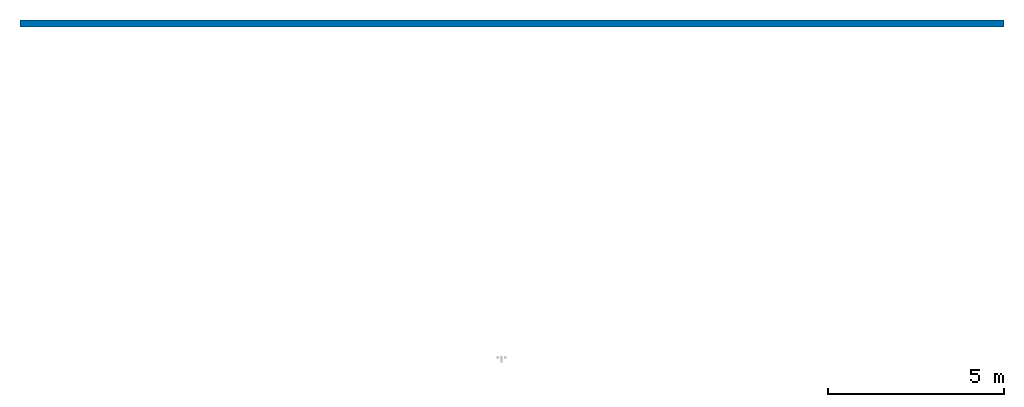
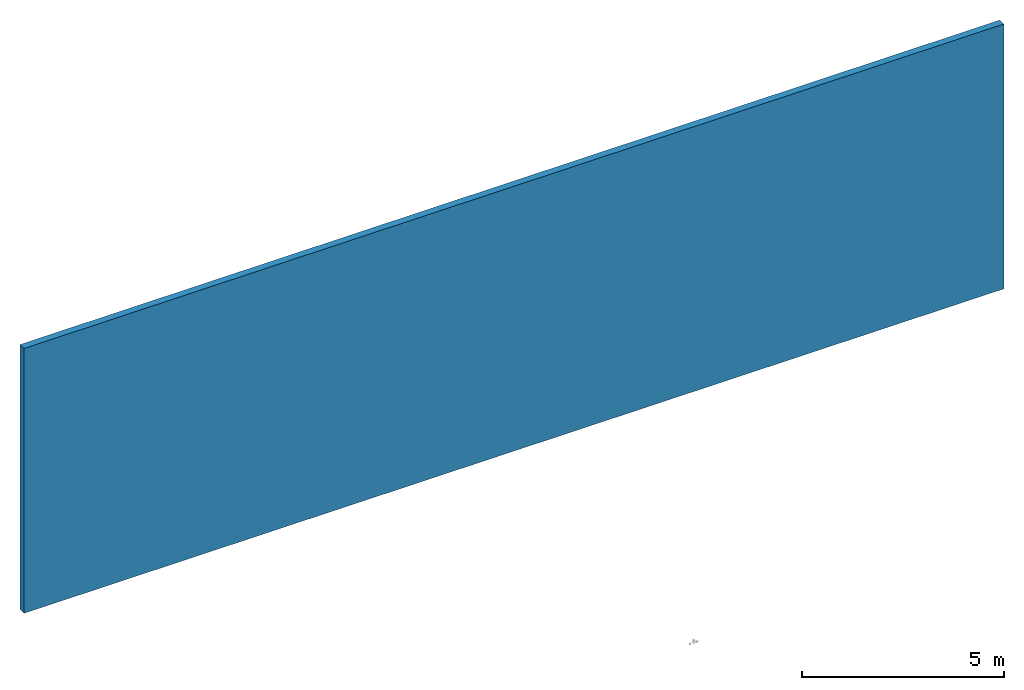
# One storey, part 1 of 2: 1 wall.
"""IFC2X3 building model written with IfcOpenShell, lengths in millimetres."""

from ifc_helpers import new_model, entity, si_unit, converted_unit, derived_unit, direction, frame, frame_2d, origin, place, context, subcontext, project, spatial, rectangle, extrude, material, layer, layer_set, layer_usage, type_object, element, save


model = new_model("IFC2X3")

# Units and contexts
model_context = context("Model", 3, precision=0.01, world=origin(), true_north=direction((6.12303176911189e-17, 1.0)))
body_context = subcontext(model_context, "Body", "Model", "MODEL_VIEW")
ifc_project = project(units=[si_unit("LENGTHUNIT", "METRE", prefix="MILLI"), si_unit("AREAUNIT", "SQUARE_METRE"), si_unit("VOLUMEUNIT", "CUBIC_METRE"), converted_unit("PLANEANGLEUNIT", "DEGREE", entity("IfcRatioMeasure", 0.0174532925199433), si_unit("PLANEANGLEUNIT", "RADIAN"), dimensions=[0, 0, 0, 0, 0, 0, 0]), si_unit("MASSUNIT", "GRAM", prefix="KILO"), derived_unit("MASSDENSITYUNIT", [(si_unit("MASSUNIT", "GRAM", prefix="KILO"), 1), (si_unit("LENGTHUNIT", "METRE"), -3)]), derived_unit("MOMENTOFINERTIAUNIT", [(si_unit("LENGTHUNIT", "METRE"), 4)]), si_unit("TIMEUNIT", "SECOND"), si_unit("FREQUENCYUNIT", "HERTZ"), si_unit("THERMODYNAMICTEMPERATUREUNIT", "DEGREE_CELSIUS"), derived_unit("THERMALTRANSMITTANCEUNIT", [(si_unit("MASSUNIT", "GRAM", prefix="KILO"), 1), (si_unit("THERMODYNAMICTEMPERATUREUNIT", "KELVIN"), -1), (si_unit("TIMEUNIT", "SECOND"), -3)]), derived_unit("VOLUMETRICFLOWRATEUNIT", [(si_unit("LENGTHUNIT", "METRE"), 3), (si_unit("TIMEUNIT", "SECOND"), -1)]), si_unit("ELECTRICCURRENTUNIT", "AMPERE"), si_unit("ELECTRICVOLTAGEUNIT", "VOLT"), si_unit("POWERUNIT", "WATT"), si_unit("FORCEUNIT", "NEWTON", prefix="KILO"), si_unit("ILLUMINANCEUNIT", "LUX"), si_unit("LUMINOUSFLUXUNIT", "LUMEN"), si_unit("LUMINOUSINTENSITYUNIT", "CANDELA"), derived_unit("USERDEFINED", [(si_unit("MASSUNIT", "GRAM", prefix="KILO"), -1), (si_unit("LENGTHUNIT", "METRE"), -2), (si_unit("TIMEUNIT", "SECOND"), 3), (si_unit("LUMINOUSFLUXUNIT", "LUMEN"), 1)]), derived_unit("LINEARVELOCITYUNIT", [(si_unit("LENGTHUNIT", "METRE"), 1), (si_unit("TIMEUNIT", "SECOND"), -1)]), si_unit("PRESSUREUNIT", "PASCAL"), derived_unit("USERDEFINED", [(si_unit("LENGTHUNIT", "METRE"), -2), (si_unit("MASSUNIT", "GRAM", prefix="KILO"), 1), (si_unit("TIMEUNIT", "SECOND"), -2)]), derived_unit("LINEARFORCEUNIT", [(si_unit("MASSUNIT", "GRAM", prefix="KILO"), 1), (si_unit("LENGTHUNIT", "METRE"), 1), (si_unit("TIMEUNIT", "SECOND"), -2), (si_unit("LENGTHUNIT", "METRE"), -1)]), derived_unit("PLANARFORCEUNIT", [(si_unit("MASSUNIT", "GRAM", prefix="KILO"), 1), (si_unit("LENGTHUNIT", "METRE"), 1), (si_unit("TIMEUNIT", "SECOND"), -2), (si_unit("LENGTHUNIT", "METRE"), -2)])], contexts=[model_context])

# Site, building, storey
site_placement = place(None, origin())
site = spatial("IfcSite", under=ifc_project, at=site_placement, Name="Default", CompositionType="ELEMENT")
building_placement = place(site_placement, origin())
building = spatial("IfcBuilding", under=site, at=building_placement, CompositionType="ELEMENT")
storey_placement = place(building_placement, origin())
storey = spatial("IfcBuildingStorey", under=building, at=storey_placement, Name="Level 1", CompositionType="ELEMENT", Elevation=0.0)

# Wall
ifc_material = material(Name="Default Wall")
ifc_layer = layer(ifc_material, 200.0)
ifc_layer_set = layer_set([ifc_layer], Name="Basic Wall:Generic - 200mm")
ifc_layer_usage = layer_usage(ifc_layer_set, "AXIS2", "NEGATIVE", 100.0)
wall_type = type_object("IfcWallType", Name="Basic Wall:Generic - 200mm", PredefinedType="STANDARD", material=ifc_layer_set)
wall_placement = place(storey_placement, frame((-12907.7929315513, 3134.83382976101, 0.0)))
element("IfcWallStandardCase", 1, at=wall_placement, inside=storey, type_object=wall_type, material=ifc_layer_usage, Name="Basic Wall:Generic - 200mm", ObjectType="Basic Wall:Generic - 200mm", context=body_context, shape_type="SweptSolid", body=[
    extrude(rectangle(XDim=28000.0, YDim=200.0, at=frame_2d((14000.0, 2.1316282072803e-14), x_axis=(-1.0, 0.0))), origin(), (0.0, 0.0, 1.0), 8000.0),
])

save(model, "model.ifc")
